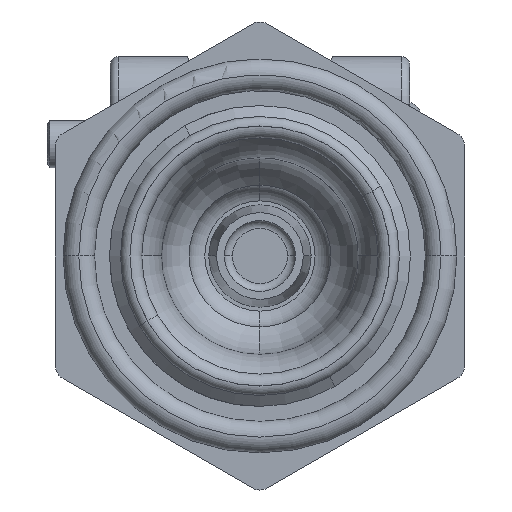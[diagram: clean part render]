
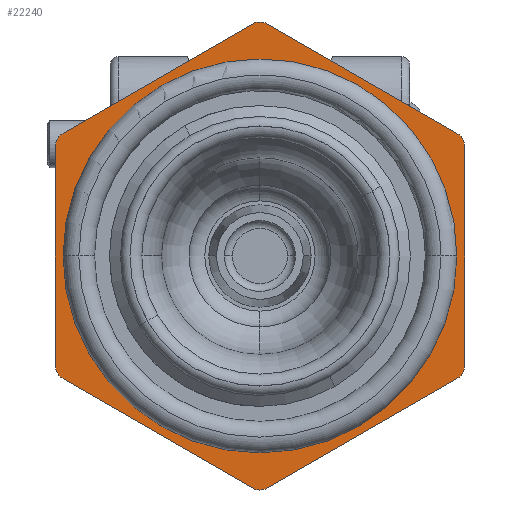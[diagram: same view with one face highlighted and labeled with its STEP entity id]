
A CAD part, left-side view. The second image highlights one B-rep face of the part: STEP entity #22240.
In plain terms, the highlighted planar face has unit normal (-1, 0, 0).
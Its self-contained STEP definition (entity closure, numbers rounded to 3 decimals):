
#18720=CARTESIAN_POINT('',(95.104,57.091,
-14.722));
#18730=VERTEX_POINT('',#18720);
#18780=CARTESIAN_POINT('',(95.104,57.591,
-15.011));
#18790=DIRECTION('',(0.,0.866,
-0.5));
#18800=VECTOR('',#18790,1.);
#18810=LINE('',#18780,#18800);
#18820=CARTESIAN_POINT('',(95.104,45.091,
-7.794));
#18830=VERTEX_POINT('',#18820);
#18840=EDGE_CURVE('',#18830,#18730,#18810,.T.);
#20740=CARTESIAN_POINT('',(95.104,44.591,
6.928));
#20750=VERTEX_POINT('',#20740);
#20780=CARTESIAN_POINT('',(95.104,45.591,
6.928));
#20790=DIRECTION('',(1.,0.,0.));
#20800=DIRECTION('',(0.,1.,0.));
#20810=AXIS2_PLACEMENT_3D('',#20780,#20790,#20800);
#20820=CIRCLE('',#20810,1.);
#20830=CARTESIAN_POINT('',(95.104,45.091,
7.794));
#20840=VERTEX_POINT('',#20830);
#20850=EDGE_CURVE('',#20840,#20750,#20820,.T.);
#21060=CARTESIAN_POINT('',(95.104,70.591,
-6.928));
#21070=VERTEX_POINT('',#21060);
#21150=CARTESIAN_POINT('',(95.104,70.591,
6.928));
#21160=VERTEX_POINT('',#21150);
#21190=CARTESIAN_POINT('',(95.104,70.591,
9.31));
#21200=DIRECTION('',(0.,0.,1.));
#21210=VECTOR('',#21200,1.);
#21220=LINE('',#21190,#21210);
#21230=EDGE_CURVE('',#21070,#21160,#21220,.T.);
#21280=CARTESIAN_POINT('',(95.104,57.591,
11.928));
#21290=DIRECTION('',(-1.,0.,0.));
#21300=DIRECTION('',(0.,0.,1.));
#21310=AXIS2_PLACEMENT_3D('',#21280,#21290,#21300);
#21320=PLANE('',#21310);
#21330=CARTESIAN_POINT('',(95.104,57.591,0.));
#21340=DIRECTION('',(-1.,0.,0.));
#21350=DIRECTION('',(0.,0.5,-0.866));
#21360=AXIS2_PLACEMENT_3D('',#21330,#21340,#21350);
#21370=CIRCLE('',#21360,12.5);
#21380=CARTESIAN_POINT('',(95.104,63.841,
-10.825));
#21390=VERTEX_POINT('',#21380);
#21400=CARTESIAN_POINT('',(95.104,51.341,
10.825));
#21410=VERTEX_POINT('',#21400);
#21420=EDGE_CURVE('',#21390,#21410,#21370,.T.);
#21430=ORIENTED_EDGE('',*,*,#21420,.F.);
#21440=EDGE_CURVE('',#21410,#21390,#21370,.T.);
#21450=ORIENTED_EDGE('',*,*,#21440,.F.);
#21460=EDGE_LOOP('',(#21450,#21430));
#21470=FACE_BOUND('',#21460,.T.);
#21480=CARTESIAN_POINT('',(95.104,44.591,
9.31));
#21490=DIRECTION('',(0.,0.,-1.));
#21500=VECTOR('',#21490,1.);
#21510=LINE('',#21480,#21500);
#21520=CARTESIAN_POINT('',(95.104,44.591,
-6.928));
#21530=VERTEX_POINT('',#21520);
#21540=EDGE_CURVE('',#20750,#21530,#21510,.T.);
#21550=ORIENTED_EDGE('',*,*,#21540,.F.);
#21560=CARTESIAN_POINT('',(95.104,45.591,
-6.928));
#21570=DIRECTION('',(1.,0.,0.));
#21580=DIRECTION('',(0.,1.,0.));
#21590=AXIS2_PLACEMENT_3D('',#21560,#21570,#21580);
#21600=CIRCLE('',#21590,1.);
#21610=EDGE_CURVE('',#21530,#18830,#21600,.T.);
#21620=ORIENTED_EDGE('',*,*,#21610,.F.);
#21630=ORIENTED_EDGE('',*,*,#18840,.F.);
#21640=CARTESIAN_POINT('',(95.104,57.591,
-13.856));
#21650=DIRECTION('',(1.,0.,0.));
#21660=DIRECTION('',(0.,1.,0.));
#21670=AXIS2_PLACEMENT_3D('',#21640,#21650,#21660);
#21680=CIRCLE('',#21670,1.);
#21690=CARTESIAN_POINT('',(95.104,58.091,
-14.722));
#21700=VERTEX_POINT('',#21690);
#21710=EDGE_CURVE('',#18730,#21700,#21680,.T.);
#21720=ORIENTED_EDGE('',*,*,#21710,.F.);
#21730=CARTESIAN_POINT('',(95.104,57.591,
-15.011));
#21740=DIRECTION('',(0.,0.866,
0.5));
#21750=VECTOR('',#21740,1.);
#21760=LINE('',#21730,#21750);
#21770=CARTESIAN_POINT('',(95.104,70.091,
-7.794));
#21780=VERTEX_POINT('',#21770);
#21790=EDGE_CURVE('',#21700,#21780,#21760,.T.);
#21800=ORIENTED_EDGE('',*,*,#21790,.F.);
#21810=CARTESIAN_POINT('',(95.104,69.591,
-6.928));
#21820=DIRECTION('',(1.,0.,0.));
#21830=DIRECTION('',(0.,1.,0.));
#21840=AXIS2_PLACEMENT_3D('',#21810,#21820,#21830);
#21850=CIRCLE('',#21840,1.);
#21860=EDGE_CURVE('',#21780,#21070,#21850,.T.);
#21870=ORIENTED_EDGE('',*,*,#21860,.F.);
#21880=ORIENTED_EDGE('',*,*,#21230,.F.);
#21890=CARTESIAN_POINT('',(95.104,69.591,
6.928));
#21900=DIRECTION('',(1.,0.,0.));
#21910=DIRECTION('',(0.,1.,0.));
#21920=AXIS2_PLACEMENT_3D('',#21890,#21900,#21910);
#21930=CIRCLE('',#21920,1.);
#21940=CARTESIAN_POINT('',(95.104,70.091,
7.794));
#21950=VERTEX_POINT('',#21940);
#21960=EDGE_CURVE('',#21160,#21950,#21930,.T.);
#21970=ORIENTED_EDGE('',*,*,#21960,.F.);
#21980=CARTESIAN_POINT('',(95.104,57.591,
15.011));
#21990=DIRECTION('',(0.,-0.866,
0.5));
#22000=VECTOR('',#21990,1.);
#22010=LINE('',#21980,#22000);
#22020=CARTESIAN_POINT('',(95.104,58.091,
14.722));
#22030=VERTEX_POINT('',#22020);
#22040=EDGE_CURVE('',#21950,#22030,#22010,.T.);
#22050=ORIENTED_EDGE('',*,*,#22040,.F.);
#22060=CARTESIAN_POINT('',(95.104,57.591,
13.856));
#22070=DIRECTION('',(1.,0.,0.));
#22080=DIRECTION('',(0.,1.,0.));
#22090=AXIS2_PLACEMENT_3D('',#22060,#22070,#22080);
#22100=CIRCLE('',#22090,1.);
#22110=CARTESIAN_POINT('',(95.104,57.091,
14.722));
#22120=VERTEX_POINT('',#22110);
#22130=EDGE_CURVE('',#22030,#22120,#22100,.T.);
#22140=ORIENTED_EDGE('',*,*,#22130,.F.);
#22150=CARTESIAN_POINT('',(95.104,57.591,
15.011));
#22160=DIRECTION('',(0.,-0.866,
-0.5));
#22170=VECTOR('',#22160,1.);
#22180=LINE('',#22150,#22170);
#22190=EDGE_CURVE('',#22120,#20840,#22180,.T.);
#22200=ORIENTED_EDGE('',*,*,#22190,.F.);
#22210=ORIENTED_EDGE('',*,*,#20850,.F.);
#22220=EDGE_LOOP('',(#22210,#22200,#22140,#22050,#21970,#21880,#21870,
#21800,#21720,#21630,#21620,#21550));
#22230=FACE_OUTER_BOUND('',#22220,.T.);
#22240=ADVANCED_FACE('',(#21470,#22230),#21320,.T.);
